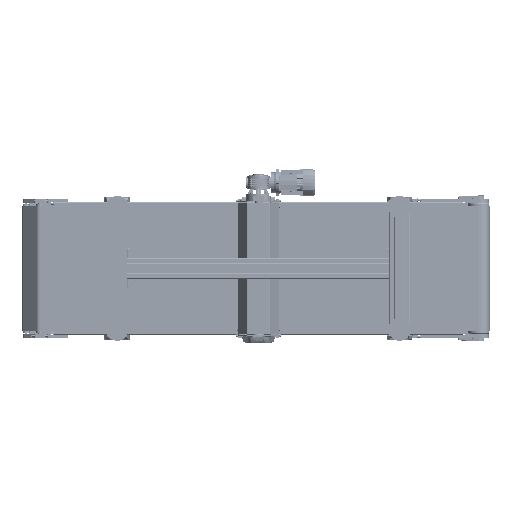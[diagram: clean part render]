
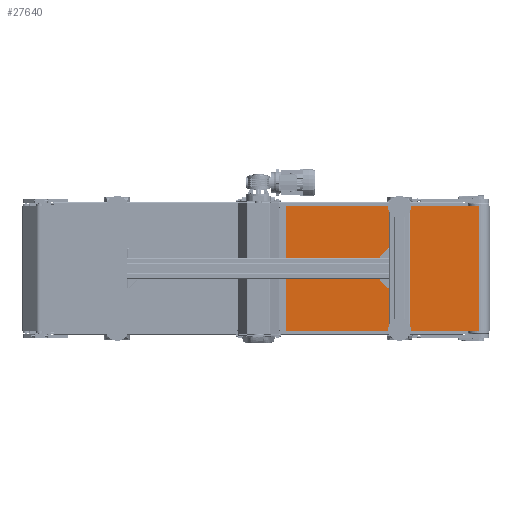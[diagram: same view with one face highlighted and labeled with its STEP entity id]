
A CAD part, front view. The second image highlights one B-rep face of the part: STEP entity #27640.
In plain terms, the highlighted planar face has unit normal (0, -1, 0).
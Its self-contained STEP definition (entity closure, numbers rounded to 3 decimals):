
#19027 = EDGE_CURVE ( 'NONE', #299031, #70045, #50195, .T. ) ;
#27640 = ADVANCED_FACE ( 'NONE', ( #54474 ), #199390, .F. ) ;
#44109 = DIRECTION ( 'NONE',  ( 1., 0., 0. ) ) ;
#46460 = DIRECTION ( 'NONE',  ( 1., 0., 0. ) ) ;
#50195 = LINE ( 'NONE', #145307, #185898 ) ;
#50352 = EDGE_CURVE ( 'NONE', #299031, #255116, #150260, .T. ) ;
#54474 = FACE_OUTER_BOUND ( 'NONE', #141188, .T. ) ;
#69000 = CARTESIAN_POINT ( 'NONE',  ( 974., -49.5, 275. ) ) ;
#69017 = AXIS2_PLACEMENT_3D ( 'NONE', #149580, #244579, #271020 ) ;
#70045 = VERTEX_POINT ( 'NONE', #69000 ) ;
#72379 = CARTESIAN_POINT ( 'NONE',  ( 61., -49.5, 275. ) ) ;
#77052 = VECTOR ( 'NONE', #187469, 1000. ) ;
#79018 = VECTOR ( 'NONE', #262509, 1000. ) ;
#84529 = EDGE_CURVE ( 'NONE', #70045, #103591, #234228, .T. ) ;
#87184 = CARTESIAN_POINT ( 'NONE',  ( 61., -49.5, 275. ) ) ;
#103591 = VERTEX_POINT ( 'NONE', #235472 ) ;
#133448 = ORIENTED_EDGE ( 'NONE', *, *, #84529, .F. ) ;
#141188 = EDGE_LOOP ( 'NONE', ( #234165, #133448, #218490, #161810 ) ) ;
#145307 = CARTESIAN_POINT ( 'NONE',  ( 61., -49.5, 275. ) ) ;
#149580 = CARTESIAN_POINT ( 'NONE',  ( 61., -49.5, 275. ) ) ;
#150260 = LINE ( 'NONE', #72379, #79018 ) ;
#155466 = EDGE_CURVE ( 'NONE', #255116, #103591, #210110, .T. ) ;
#161810 = ORIENTED_EDGE ( 'NONE', *, *, #50352, .T. ) ;
#185898 = VECTOR ( 'NONE', #44109, 1000. ) ;
#187469 = DIRECTION ( 'NONE',  ( 0., 0., -1. ) ) ;
#195682 = VECTOR ( 'NONE', #46460, 1000. ) ;
#199390 = PLANE ( 'NONE',  #69017 ) ;
#210110 = LINE ( 'NONE', #305164, #195682 ) ;
#218490 = ORIENTED_EDGE ( 'NONE', *, *, #19027, .F. ) ;
#231114 = CARTESIAN_POINT ( 'NONE',  ( 61., -49.5, -275. ) ) ;
#234165 = ORIENTED_EDGE ( 'NONE', *, *, #155466, .T. ) ;
#234228 = LINE ( 'NONE', #305862, #77052 ) ;
#235472 = CARTESIAN_POINT ( 'NONE',  ( 974., -49.5, -275. ) ) ;
#244579 = DIRECTION ( 'NONE',  ( 0., 1., 0. ) ) ;
#255116 = VERTEX_POINT ( 'NONE', #231114 ) ;
#262509 = DIRECTION ( 'NONE',  ( 0., 0., -1. ) ) ;
#271020 = DIRECTION ( 'NONE',  ( -1., 0., 0. ) ) ;
#299031 = VERTEX_POINT ( 'NONE', #87184 ) ;
#305164 = CARTESIAN_POINT ( 'NONE',  ( 61., -49.5, -275. ) ) ;
#305862 = CARTESIAN_POINT ( 'NONE',  ( 974., -49.5, 275. ) ) ;
